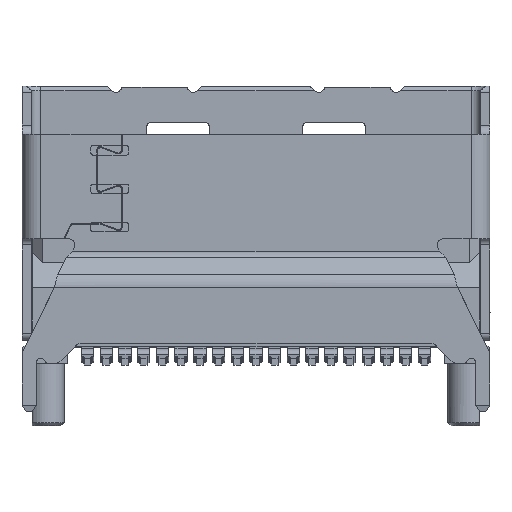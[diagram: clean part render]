
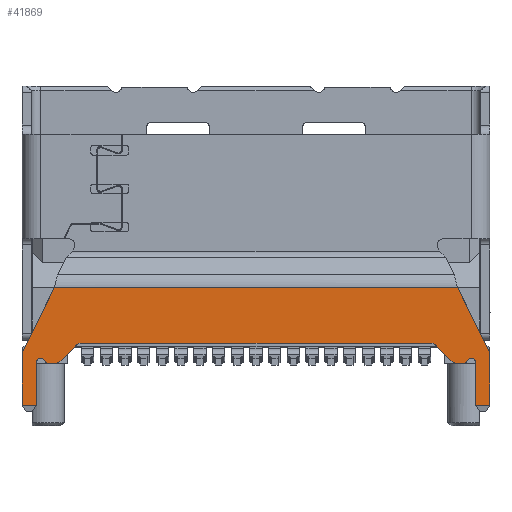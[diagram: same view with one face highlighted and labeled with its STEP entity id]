
A CAD part, top view. The second image highlights one B-rep face of the part: STEP entity #41869.
In plain terms, the highlighted planar face has unit normal (0, 0, 1).
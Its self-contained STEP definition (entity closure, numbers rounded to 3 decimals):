
#2131=DIRECTION('',(-1.,0.,0.));
#2132=VECTOR('',#2131,12.923);
#2133=CARTESIAN_POINT('',(6.461,0.771,2.3));
#2134=LINE('',#2133,#2132);
#2153=CARTESIAN_POINT('',(-7.2,-1.41,2.3));
#2154=DIRECTION('',(0.,0.,1.));
#2155=DIRECTION('',(-0.897,0.442,0.));
#2156=AXIS2_PLACEMENT_3D('',#2153,#2154,#2155);
#2158=DIRECTION('',(-0.442,-0.897,0.));
#2159=VECTOR('',#2158,2.283);
#2160=CARTESIAN_POINT('',(-6.461,0.771,
2.3));
#2161=LINE('',#2160,#2159);
#2162=DIRECTION('',(-0.442,0.897,0.));
#2163=VECTOR('',#2162,2.283);
#2164=CARTESIAN_POINT('',(7.469,-1.277,2.3));
#2165=LINE('',#2164,#2163);
#2166=CARTESIAN_POINT('',(7.2,-1.41,2.3));
#2167=DIRECTION('',(0.,0.,1.));
#2168=DIRECTION('',(1.,0.,0.));
#2169=AXIS2_PLACEMENT_3D('',#2166,#2167,#2168);
#2171=CARTESIAN_POINT('',(6.9,-1.635,2.3));
#2172=DIRECTION('',(0.,0.,-1.));
#2173=DIRECTION('',(-0.893,0.45,0.));
#2174=AXIS2_PLACEMENT_3D('',#2171,#2172,#2173);
#2176=CARTESIAN_POINT('',(6.632,-1.5,2.3));
#2177=DIRECTION('',(0.,0.,1.));
#2178=DIRECTION('',(0.,-1.,0.));
#2179=AXIS2_PLACEMENT_3D('',#2176,#2177,#2178);
#2181=CARTESIAN_POINT('',(6.466,-1.35,2.3));
#2182=DIRECTION('',(0.,0.,1.));
#2183=DIRECTION('',(-0.719,-0.695,0.));
#2184=AXIS2_PLACEMENT_3D('',#2181,#2182,#2183);
#2186=DIRECTION('',(0.695,-0.719,0.));
#2187=VECTOR('',#2186,0.649);
#2188=CARTESIAN_POINT('',(5.799,-1.092,2.3));
#2189=LINE('',#2188,#2187);
#2190=CARTESIAN_POINT('',(5.583,-1.3,2.3));
#2191=DIRECTION('',(0.,0.,-1.));
#2192=DIRECTION('',(0.,1.,0.));
#2193=AXIS2_PLACEMENT_3D('',#2190,#2191,#2192);
#2195=CARTESIAN_POINT('',(-5.583,-1.3,2.3));
#2196=DIRECTION('',(0.,0.,-1.));
#2197=DIRECTION('',(-0.719,0.695,0.));
#2198=AXIS2_PLACEMENT_3D('',#2195,#2196,#2197);
#2200=DIRECTION('',(0.695,0.719,0.));
#2201=VECTOR('',#2200,0.649);
#2202=CARTESIAN_POINT('',(-6.25,-1.558,2.3));
#2203=LINE('',#2202,#2201);
#2204=CARTESIAN_POINT('',(-6.466,-1.35,2.3));
#2205=DIRECTION('',(0.,0.,1.));
#2206=DIRECTION('',(0.,-1.,0.));
#2207=AXIS2_PLACEMENT_3D('',#2204,#2205,#2206);
#2209=CARTESIAN_POINT('',(-6.632,-1.5,2.3));
#2210=DIRECTION('',(0.,0.,1.));
#2211=DIRECTION('',(-0.893,-0.45,0.));
#2212=AXIS2_PLACEMENT_3D('',#2209,#2210,#2211);
#2214=CARTESIAN_POINT('',(-6.9,-1.635,2.3));
#2215=DIRECTION('',(0.,0.,-1.));
#2216=DIRECTION('',(-1.,0.,0.));
#2217=AXIS2_PLACEMENT_3D('',#2214,#2215,#2216);
#2227=DIRECTION('',(0.,-1.,0.));
#2228=VECTOR('',#2227,1.575);
#2229=CARTESIAN_POINT('',(-7.5,-1.41,2.3));
#2230=LINE('',#2229,#2228);
#2277=DIRECTION('',(-1.,0.,0.));
#2278=VECTOR('',#2277,0.45);
#2279=CARTESIAN_POINT('',(-7.05,-2.985,2.3));
#2280=LINE('',#2279,#2278);
#2307=DIRECTION('',(0.,-1.,0.));
#2308=VECTOR('',#2307,1.35);
#2309=CARTESIAN_POINT('',(-7.05,-1.635,2.3));
#2310=LINE('',#2309,#2308);
#2338=DIRECTION('',(1.,0.,0.));
#2339=VECTOR('',#2338,0.166);
#2340=CARTESIAN_POINT('',(-6.632,-1.65,2.3));
#2341=LINE('',#2340,#2339);
#2517=DIRECTION('',(1.,0.,0.));
#2518=VECTOR('',#2517,11.167);
#2519=CARTESIAN_POINT('',(-5.583,-1.,2.3));
#2520=LINE('',#2519,#2518);
#2646=DIRECTION('',(0.,-1.,0.));
#2647=VECTOR('',#2646,1.575);
#2648=CARTESIAN_POINT('',(7.5,-1.41,2.3));
#2649=LINE('',#2648,#2647);
#2692=DIRECTION('',(-1.,0.,0.));
#2693=VECTOR('',#2692,0.45);
#2694=CARTESIAN_POINT('',(7.5,-2.985,2.3));
#2695=LINE('',#2694,#2693);
#2734=DIRECTION('',(0.,-1.,0.));
#2735=VECTOR('',#2734,1.35);
#2736=CARTESIAN_POINT('',(7.05,-1.635,2.3));
#2737=LINE('',#2736,#2735);
#2769=DIRECTION('',(1.,0.,0.));
#2770=VECTOR('',#2769,0.166);
#2771=CARTESIAN_POINT('',(6.466,-1.65,2.3));
#2772=LINE('',#2771,#2770);
#31654=CARTESIAN_POINT('',(6.461,0.771,
2.3));
#31655=CARTESIAN_POINT('',(-6.461,0.771,
2.3));
#31656=VERTEX_POINT('',#31654);
#31657=VERTEX_POINT('',#31655);
#31658=CARTESIAN_POINT('',(-7.469,-1.277,2.3));
#31659=CARTESIAN_POINT('',(-7.5,-1.41,2.3));
#31660=VERTEX_POINT('',#31658);
#31661=VERTEX_POINT('',#31659);
#31662=CARTESIAN_POINT('',(7.469,-1.277,2.3));
#31663=VERTEX_POINT('',#31662);
#31664=CARTESIAN_POINT('',(7.5,-1.41,2.3));
#31665=VERTEX_POINT('',#31664);
#31666=CARTESIAN_POINT('',(7.5,-2.985,2.3));
#31667=VERTEX_POINT('',#31666);
#31668=CARTESIAN_POINT('',(7.05,-2.985,2.3));
#31669=VERTEX_POINT('',#31668);
#31670=CARTESIAN_POINT('',(7.05,-1.635,2.3));
#31671=VERTEX_POINT('',#31670);
#31672=CARTESIAN_POINT('',(6.766,-1.568,2.3));
#31673=VERTEX_POINT('',#31672);
#31674=CARTESIAN_POINT('',(6.632,-1.65,2.3));
#31675=VERTEX_POINT('',#31674);
#31676=CARTESIAN_POINT('',(6.466,-1.65,2.3));
#31677=VERTEX_POINT('',#31676);
#31678=CARTESIAN_POINT('',(6.25,-1.558,2.3));
#31679=VERTEX_POINT('',#31678);
#31680=CARTESIAN_POINT('',(5.799,-1.092,2.3));
#31681=VERTEX_POINT('',#31680);
#31682=CARTESIAN_POINT('',(5.583,-1.,2.3));
#31683=VERTEX_POINT('',#31682);
#31684=CARTESIAN_POINT('',(-5.583,-1.,2.3));
#31685=VERTEX_POINT('',#31684);
#31686=CARTESIAN_POINT('',(-5.799,-1.092,2.3));
#31687=VERTEX_POINT('',#31686);
#31688=CARTESIAN_POINT('',(-6.25,-1.558,2.3));
#31689=VERTEX_POINT('',#31688);
#31690=CARTESIAN_POINT('',(-6.466,-1.65,2.3));
#31691=VERTEX_POINT('',#31690);
#31692=CARTESIAN_POINT('',(-6.632,-1.65,2.3));
#31693=VERTEX_POINT('',#31692);
#31694=CARTESIAN_POINT('',(-6.766,-1.568,2.3));
#31695=VERTEX_POINT('',#31694);
#31696=CARTESIAN_POINT('',(-7.05,-1.635,2.3));
#31697=VERTEX_POINT('',#31696);
#31698=CARTESIAN_POINT('',(-7.05,-2.985,2.3));
#31699=VERTEX_POINT('',#31698);
#31700=CARTESIAN_POINT('',(-7.5,-2.985,2.3));
#31701=VERTEX_POINT('',#31700);
#41815=CARTESIAN_POINT('',(0.,-1.107,2.3));
#41816=DIRECTION('',(0.,0.,1.));
#41817=DIRECTION('',(0.,-1.,0.));
#41818=AXIS2_PLACEMENT_3D('',#41815,#41816,#41817);
#41819=PLANE('',#41818);
#41821=ORIENTED_EDGE('',*,*,#41820,.F.);
#41823=ORIENTED_EDGE('',*,*,#41822,.F.);
#41824=ORIENTED_EDGE('',*,*,#41805,.F.);
#41826=ORIENTED_EDGE('',*,*,#41825,.F.);
#41828=ORIENTED_EDGE('',*,*,#41827,.F.);
#41830=ORIENTED_EDGE('',*,*,#41829,.T.);
#41832=ORIENTED_EDGE('',*,*,#41831,.T.);
#41834=ORIENTED_EDGE('',*,*,#41833,.F.);
#41836=ORIENTED_EDGE('',*,*,#41835,.F.);
#41838=ORIENTED_EDGE('',*,*,#41837,.F.);
#41840=ORIENTED_EDGE('',*,*,#41839,.F.);
#41842=ORIENTED_EDGE('',*,*,#41841,.F.);
#41844=ORIENTED_EDGE('',*,*,#41843,.F.);
#41846=ORIENTED_EDGE('',*,*,#41845,.F.);
#41848=ORIENTED_EDGE('',*,*,#41847,.F.);
#41850=ORIENTED_EDGE('',*,*,#41849,.F.);
#41852=ORIENTED_EDGE('',*,*,#41851,.F.);
#41854=ORIENTED_EDGE('',*,*,#41853,.F.);
#41856=ORIENTED_EDGE('',*,*,#41855,.F.);
#41858=ORIENTED_EDGE('',*,*,#41857,.F.);
#41860=ORIENTED_EDGE('',*,*,#41859,.F.);
#41862=ORIENTED_EDGE('',*,*,#41861,.T.);
#41864=ORIENTED_EDGE('',*,*,#41863,.T.);
#41866=ORIENTED_EDGE('',*,*,#41865,.F.);
#41867=EDGE_LOOP('',(#41821,#41823,#41824,#41826,#41828,#41830,#41832,#41834,
#41836,#41838,#41840,#41842,#41844,#41846,#41848,#41850,#41852,#41854,#41856,
#41858,#41860,#41862,#41864,#41866));
#41868=FACE_OUTER_BOUND('',#41867,.F.);
#2157=CIRCLE('',#2156,0.3);
#2170=CIRCLE('',#2169,0.3);
#2175=CIRCLE('',#2174,0.15);
#2180=CIRCLE('',#2179,0.15);
#2185=CIRCLE('',#2184,0.3);
#2194=CIRCLE('',#2193,0.3);
#2199=CIRCLE('',#2198,0.3);
#2208=CIRCLE('',#2207,0.3);
#2213=CIRCLE('',#2212,0.15);
#2218=CIRCLE('',#2217,0.15);
#41805=EDGE_CURVE('',#31656,#31657,#2134,.T.);
#41820=EDGE_CURVE('',#31660,#31661,#2157,.T.);
#41822=EDGE_CURVE('',#31657,#31660,#2161,.T.);
#41825=EDGE_CURVE('',#31663,#31656,#2165,.T.);
#41827=EDGE_CURVE('',#31665,#31663,#2170,.T.);
#41829=EDGE_CURVE('',#31665,#31667,#2649,.T.);
#41831=EDGE_CURVE('',#31667,#31669,#2695,.T.);
#41833=EDGE_CURVE('',#31671,#31669,#2737,.T.);
#41835=EDGE_CURVE('',#31673,#31671,#2175,.T.);
#41837=EDGE_CURVE('',#31675,#31673,#2180,.T.);
#41839=EDGE_CURVE('',#31677,#31675,#2772,.T.);
#41841=EDGE_CURVE('',#31679,#31677,#2185,.T.);
#41843=EDGE_CURVE('',#31681,#31679,#2189,.T.);
#41845=EDGE_CURVE('',#31683,#31681,#2194,.T.);
#41847=EDGE_CURVE('',#31685,#31683,#2520,.T.);
#41849=EDGE_CURVE('',#31687,#31685,#2199,.T.);
#41851=EDGE_CURVE('',#31689,#31687,#2203,.T.);
#41853=EDGE_CURVE('',#31691,#31689,#2208,.T.);
#41855=EDGE_CURVE('',#31693,#31691,#2341,.T.);
#41857=EDGE_CURVE('',#31695,#31693,#2213,.T.);
#41859=EDGE_CURVE('',#31697,#31695,#2218,.T.);
#41861=EDGE_CURVE('',#31697,#31699,#2310,.T.);
#41863=EDGE_CURVE('',#31699,#31701,#2280,.T.);
#41865=EDGE_CURVE('',#31661,#31701,#2230,.T.);
#41869=ADVANCED_FACE('',(#41868),#41819,.T.);
